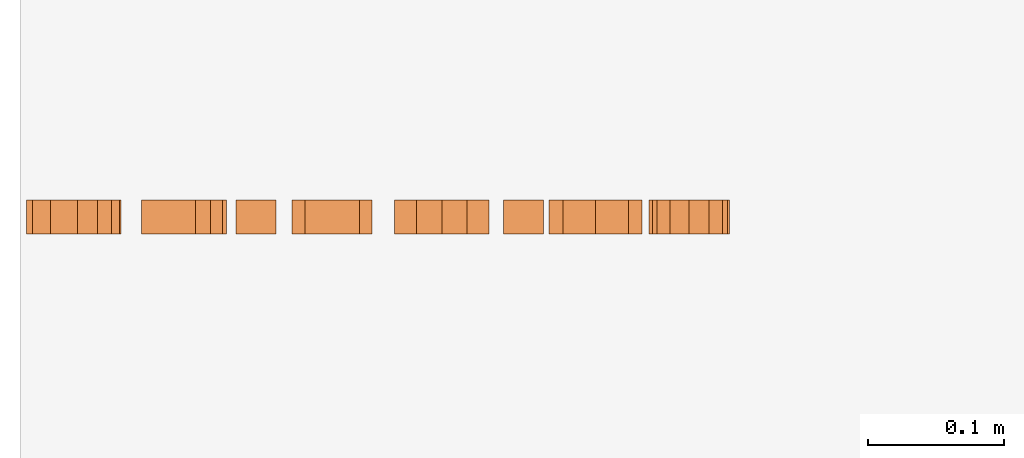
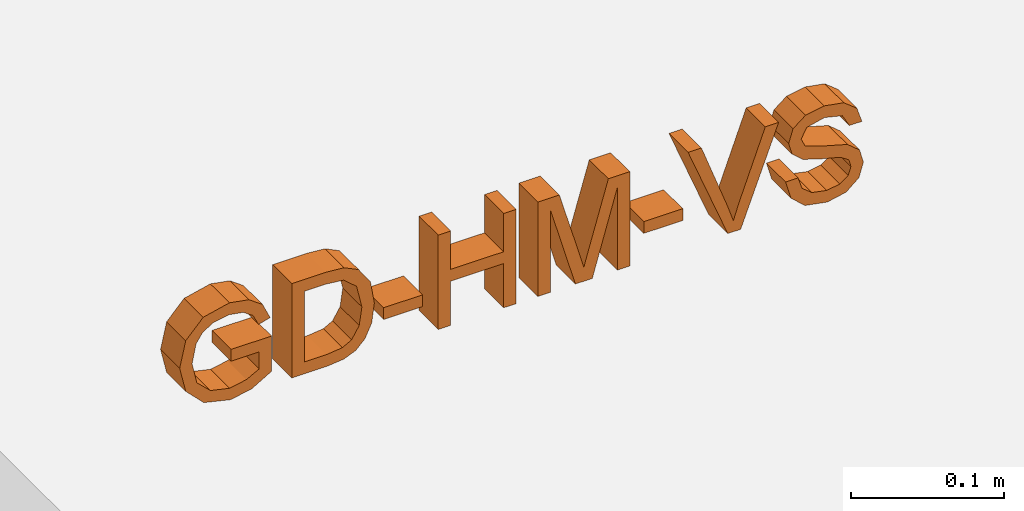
# Not in any storey, part 2 of 2: 1 proxy.
"""IFC4 model written with IfcOpenShell, lengths in metres."""

from ifc_helpers import new_model, entity, si_unit, converted_unit, derived_unit, direction, frame, origin, place, context, subcontext, project, spatial, indexed_curve, outline, extrude, type_object, element, save


model = new_model("IFC4")

# Units and contexts
model_context = context("Model", 3, precision=1e-05, world=origin(), true_north=direction((6.123031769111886e-17, 1.0)))
body_context = subcontext(model_context, "Body", "Model", "MODEL_VIEW")
ifc_project = project(units=[si_unit("LENGTHUNIT", "METRE"), si_unit("AREAUNIT", "SQUARE_METRE"), si_unit("VOLUMEUNIT", "CUBIC_METRE"), converted_unit("PLANEANGLEUNIT", "DEGREE", entity("IfcRatioMeasure", 0.017453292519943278), si_unit("PLANEANGLEUNIT", "RADIAN"), dimensions=[0, 0, 0, 0, 0, 0, 0]), si_unit("MASSUNIT", "GRAM", prefix="KILO"), derived_unit("MASSDENSITYUNIT", [(si_unit("MASSUNIT", "GRAM", prefix="KILO"), 1), (si_unit("LENGTHUNIT", "METRE"), -3)]), derived_unit("IONCONCENTRATIONUNIT", [(si_unit("MASSUNIT", "GRAM", prefix="KILO"), 1), (si_unit("LENGTHUNIT", "METRE"), -3)]), derived_unit("MOMENTOFINERTIAUNIT", [(si_unit("LENGTHUNIT", "METRE"), 4)]), si_unit("TIMEUNIT", "SECOND"), si_unit("FREQUENCYUNIT", "HERTZ"), si_unit("THERMODYNAMICTEMPERATUREUNIT", "DEGREE_CELSIUS"), derived_unit("THERMALTRANSMITTANCEUNIT", [(si_unit("MASSUNIT", "GRAM", prefix="KILO"), 1), (si_unit("THERMODYNAMICTEMPERATUREUNIT", "KELVIN"), -1), (si_unit("TIMEUNIT", "SECOND"), -3)]), derived_unit("THERMALCONDUCTANCEUNIT", [(si_unit("MASSUNIT", "GRAM", prefix="KILO"), 1), (si_unit("THERMODYNAMICTEMPERATUREUNIT", "KELVIN"), -1), (si_unit("TIMEUNIT", "SECOND"), -3), (si_unit("LENGTHUNIT", "METRE"), 1)]), derived_unit("VOLUMETRICFLOWRATEUNIT", [(si_unit("LENGTHUNIT", "METRE"), 3), (si_unit("TIMEUNIT", "SECOND"), -1)]), derived_unit("MASSFLOWRATEUNIT", [(si_unit("MASSUNIT", "GRAM", prefix="KILO"), 1), (si_unit("TIMEUNIT", "SECOND"), -1)]), derived_unit("ROTATIONALFREQUENCYUNIT", [(si_unit("TIMEUNIT", "SECOND"), -1)]), si_unit("ELECTRICCURRENTUNIT", "AMPERE"), si_unit("ELECTRICVOLTAGEUNIT", "VOLT"), si_unit("POWERUNIT", "WATT"), si_unit("FORCEUNIT", "NEWTON", prefix="KILO"), si_unit("ILLUMINANCEUNIT", "LUX"), si_unit("LUMINOUSFLUXUNIT", "LUMEN"), si_unit("LUMINOUSINTENSITYUNIT", "CANDELA"), derived_unit("USERDEFINED", [(si_unit("MASSUNIT", "GRAM", prefix="KILO"), -1), (si_unit("LENGTHUNIT", "METRE"), -2), (si_unit("TIMEUNIT", "SECOND"), 3), (si_unit("LUMINOUSFLUXUNIT", "LUMEN"), 1)]), derived_unit("USERDEFINED", [(si_unit("MASSUNIT", "GRAM", prefix="KILO"), 1), (si_unit("TIMEUNIT", "SECOND"), -3), (si_unit("LENGTHUNIT", "METRE"), 3), (si_unit("ELECTRICCURRENTUNIT", "AMPERE"), -2)]), derived_unit("SOUNDPOWERUNIT", [(si_unit("MASSUNIT", "GRAM", prefix="KILO"), 1), (si_unit("TIMEUNIT", "SECOND"), -3), (si_unit("LENGTHUNIT", "METRE"), 2)]), derived_unit("SOUNDPRESSUREUNIT", [(si_unit("MASSUNIT", "GRAM", prefix="KILO"), 1), (si_unit("LENGTHUNIT", "METRE"), -1), (si_unit("TIMEUNIT", "SECOND"), -2)]), derived_unit("LINEARVELOCITYUNIT", [(si_unit("LENGTHUNIT", "METRE"), 1), (si_unit("TIMEUNIT", "SECOND"), -1)]), si_unit("PRESSUREUNIT", "PASCAL"), derived_unit("USERDEFINED", [(si_unit("MASSUNIT", "GRAM", prefix="KILO"), 1), (si_unit("LENGTHUNIT", "METRE"), -2), (si_unit("TIMEUNIT", "SECOND"), -2)]), derived_unit("LINEARFORCEUNIT", [(si_unit("MASSUNIT", "GRAM", prefix="KILO"), 1), (si_unit("TIMEUNIT", "SECOND"), -2)]), derived_unit("PLANARFORCEUNIT", [(si_unit("MASSUNIT", "GRAM", prefix="KILO"), 1), (si_unit("LENGTHUNIT", "METRE"), -1), (si_unit("TIMEUNIT", "SECOND"), -2)]), derived_unit("SPECIFICHEATCAPACITYUNIT", [(si_unit("THERMODYNAMICTEMPERATUREUNIT", "KELVIN"), -1), (si_unit("LENGTHUNIT", "METRE"), 2), (si_unit("TIMEUNIT", "SECOND"), -2)]), derived_unit("HEATINGVALUEUNIT", [(si_unit("LENGTHUNIT", "METRE"), 2), (si_unit("TIMEUNIT", "SECOND"), -2)]), derived_unit("VAPORPERMEABILITYUNIT", [(si_unit("LENGTHUNIT", "METRE"), -1), (si_unit("TIMEUNIT", "SECOND"), 1)]), derived_unit("DYNAMICVISCOSITYUNIT", [(si_unit("MASSUNIT", "GRAM", prefix="KILO"), 1), (si_unit("TIMEUNIT", "SECOND"), -1), (si_unit("LENGTHUNIT", "METRE"), -1)]), derived_unit("THERMALEXPANSIONCOEFFICIENTUNIT", [(si_unit("THERMODYNAMICTEMPERATUREUNIT", "KELVIN"), -1)]), derived_unit("MODULUSOFELASTICITYUNIT", [(si_unit("MASSUNIT", "GRAM", prefix="KILO"), 1), (si_unit("LENGTHUNIT", "METRE"), -1), (si_unit("TIMEUNIT", "SECOND"), -2)]), derived_unit("ISOTHERMALMOISTURECAPACITYUNIT", [(si_unit("LENGTHUNIT", "METRE"), 3), (si_unit("MASSUNIT", "GRAM", prefix="KILO"), -1)]), derived_unit("MOISTUREDIFFUSIVITYUNIT", [(si_unit("TIMEUNIT", "SECOND"), -1), (si_unit("LENGTHUNIT", "METRE"), 2)])], contexts=[model_context])

# Site
site_placement = place(None, origin())
site = spatial("IfcSite", under=ifc_project, at=site_placement, Name="Default", CompositionType="ELEMENT")

# Proxy
building_element_proxy_type = type_object("IfcBuildingElementProxyType", Name="Modelltext:075mm Arial", PredefinedType="NOTDEFINED")
proxy_placement = place(site_placement, origin())
element("IfcBuildingElementProxy", 1, at=proxy_placement, inside=site, type_object=building_element_proxy_type, Name="Modelltext:075mm Arial", ObjectType="Modelltext:075mm Arial", PredefinedType="NOTDEFINED", context=body_context, shape_type="SweptSolid", body=[
    extrude(outline(indexed_curve([(-0.00963121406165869, 0.0014347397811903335), (-0.00021343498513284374, 0.0014347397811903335), (-0.00021343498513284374, 0.0320425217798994), (-0.02837480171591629, 0.0320425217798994), (-0.03725915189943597, 0.01693176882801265), (-0.04023899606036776, 0.0009564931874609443), (-0.035502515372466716, -0.01915745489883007), (-0.021789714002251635, -0.032805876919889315), (-0.0017585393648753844, -0.03741359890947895), (0.01872329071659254, -0.032824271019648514), (0.032840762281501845, -0.019626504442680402), (0.03745768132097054, 0.00020233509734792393), (0.034781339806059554, 0.014936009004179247), (0.027331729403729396, 0.025264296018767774), (0.014869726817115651, 0.030957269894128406), (0.01242331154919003, 0.022275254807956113), (0.02113291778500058, 0.017980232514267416), (0.026154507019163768, 0.01064098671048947), (0.028039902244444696, 5.518229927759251e-05), (0.026007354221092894, -0.01200215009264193), (0.020673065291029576, -0.020205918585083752), (0.013416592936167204, -0.025052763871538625), (-0.001372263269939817, -0.027995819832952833), (-0.01778899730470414, -0.024454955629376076), (-0.027611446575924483, -0.014154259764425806), (-0.030821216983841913, 0.00020233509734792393), (-0.028402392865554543, 0.01308740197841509), (-0.02324284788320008, 0.02262474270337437), (-0.00963121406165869, 0.02262474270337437), (-0.00963121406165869, 0.0014347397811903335)], self_intersect=False)), frame((6.947724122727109, 42.834392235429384, 2.137192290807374), z_axis=(0.0, 1.0, 0.0), x_axis=(0.0, 0.0, 1.0)), (0.0, 0.0, 1.0), 0.025000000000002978),
    extrude(outline(indexed_curve([(-0.03575046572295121, -0.03902844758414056), (0.039591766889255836, -0.03902844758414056), (0.039591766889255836, -0.013037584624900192), (0.0385065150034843, 0.000408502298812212), (0.0331170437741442, 0.011481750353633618), (0.02024117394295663, 0.02040288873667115), (0.0023253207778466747, 0.02336433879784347), (-0.012877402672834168, 0.021359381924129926), (-0.023849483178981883, 0.016209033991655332), (-0.030682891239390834, 0.00932964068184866), (-0.03446287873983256, 0.0003257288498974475), (-0.03575046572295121, -0.011786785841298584), (-0.03575046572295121, -0.03902844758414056)], self_intersect=False), holes=[indexed_curve([(-0.02633268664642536, -0.029610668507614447), (-0.02633268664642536, -0.012945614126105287), (-0.024971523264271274, -0.0008239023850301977), (-0.021127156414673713, 0.006165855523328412), (-0.011773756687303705, 0.011895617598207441), (0.0024724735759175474, 0.013946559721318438), (0.020314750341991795, 0.009927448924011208), (0.02866567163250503, 0.0001509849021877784), (0.03017398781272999, -0.01320313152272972), (0.03017398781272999, -0.029610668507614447), (-0.02633268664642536, -0.029610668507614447)], self_intersect=False)]), frame((7.034098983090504, 42.834392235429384, 2.133880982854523), z_axis=(0.0, 1.0, 0.0), x_axis=(0.0, 0.0, 1.0)), (0.0, 0.0, 1.0), 0.025000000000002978),
    extrude(outline(indexed_curve([(-0.01250000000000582, -0.014715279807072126), (0.01249999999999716, -0.014715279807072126), (0.01249999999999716, 0.014715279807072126), (-0.01250000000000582, 0.014715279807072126), (-0.01250000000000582, -0.014715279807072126)], self_intersect=False)), frame((7.079241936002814, 42.84689223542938, 2.1204977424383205), z_axis=(0.0, 0.0, 1.0), x_axis=(0.0, 1.0, 0.0)), (0.0, 0.0, 1.0), 0.009417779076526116),
    extrude(outline(indexed_curve([(-0.03845593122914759, -0.02943055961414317), (0.03688630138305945, -0.02943055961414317), (0.03688630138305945, -0.020012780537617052), (0.006278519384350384, -0.020012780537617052), (0.006278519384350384, 0.020012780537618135), (0.03688630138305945, 0.020012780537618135), (0.03688630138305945, 0.02943055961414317), (-0.03845593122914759, 0.02943055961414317), (-0.03845593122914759, 0.020012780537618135), (-0.0031392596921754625, 0.020012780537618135), (-0.0031392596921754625, -0.020012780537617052), (-0.03845593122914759, -0.020012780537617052), (-0.03845593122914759, -0.02943055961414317)], self_intersect=False)), frame((7.135159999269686, 42.834392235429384, 2.1365864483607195), z_axis=(0.0, 1.0, 0.0), x_axis=(0.0, 0.0, 1.0)), (0.0, 0.0, 1.0), 0.025000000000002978),
    extrude(outline(indexed_curve([(-0.03265075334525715, -0.034745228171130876), (0.04269147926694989, -0.034745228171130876), (0.04269147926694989, -0.01854002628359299), (-0.010412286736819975, -0.0031257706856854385), (-0.021503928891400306, -1.7167826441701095e-05), (-0.009492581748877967, 0.0033489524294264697), (0.04269147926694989, 0.01850569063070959), (0.04269147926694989, 0.03471089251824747), (-0.03265075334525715, 0.03471089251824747), (-0.03265075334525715, 0.02529311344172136), (0.03327370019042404, 0.02529311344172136), (-0.03265075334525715, 0.006365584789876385), (-0.03265075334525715, -0.006399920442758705), (0.03327370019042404, -0.02532744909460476), (-0.03265075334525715, -0.02532744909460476), (-0.03265075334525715, -0.034745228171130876)], self_intersect=False)), frame((7.21581690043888, 42.834392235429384, 2.1307812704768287), z_axis=(0.0, 1.0, 0.0), x_axis=(0.0, 0.0, 1.0)), (0.0, 0.0, 1.0), 0.025000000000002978),
    extrude(outline(indexed_curve([(-0.01250000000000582, -0.014715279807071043), (0.01249999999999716, -0.014715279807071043), (0.01249999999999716, 0.014715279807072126), (-0.01250000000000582, 0.014715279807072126), (-0.01250000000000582, -0.014715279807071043)], self_intersect=False)), frame((7.275838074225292, 42.84689223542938, 2.1204977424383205), z_axis=(0.0, 0.0, 1.0), x_axis=(0.0, 1.0, 0.0)), (0.0, 0.0, 1.0), 0.009417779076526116),
    extrude(outline(indexed_curve([(-0.034758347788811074, -0.018530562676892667), (0.04633046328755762, -0.018530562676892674), (0.04260342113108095, -0.0091649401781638), (-0.015250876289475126, -0.010589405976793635), (-0.02811915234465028, -0.011335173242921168), (-0.018236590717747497, -0.0030866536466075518), (0.02475714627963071, 0.03568066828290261), (0.021030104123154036, 0.045046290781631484), (-0.03835616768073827, -0.009489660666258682), (-0.034758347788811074, -0.018530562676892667)], self_intersect=False)), frame((7.328947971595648, 42.834392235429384, 2.1372772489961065), z_axis=(0.0, 1.0, 0.0), x_axis=(-0.3697474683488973, 0.0, 0.9291322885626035)), (0.0, 0.0, 1.0), 0.025000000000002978),
    extrude(outline(indexed_curve([(-0.03029298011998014, 0.011054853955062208), (-0.020875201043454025, 0.011054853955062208), (-0.017840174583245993, 0.020481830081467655), (-0.010427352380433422, 0.02644151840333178), (0.0008666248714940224, 0.028713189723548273), (0.010707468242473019, 0.026993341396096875), (0.01706262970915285, 0.02226605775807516), (0.01915036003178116, 0.015947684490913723), (0.017586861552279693, 0.010070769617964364), (0.011185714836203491, 0.005794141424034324), (-0.0025270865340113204, 0.0021980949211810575), (-0.017288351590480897, -0.0024464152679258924), (-0.025298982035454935, -0.0094545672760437), (-0.02793853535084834, -0.018817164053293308), (-0.024673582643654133, -0.02947654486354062), (-0.015136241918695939, -0.036999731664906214), (-0.0011751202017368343, -0.03956570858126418), (0.013724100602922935, -0.0368801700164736), (0.023656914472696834, -0.02898910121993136), (0.027390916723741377, -0.01719848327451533), (0.01797313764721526, -0.01719848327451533), (0.01263884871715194, -0.0268737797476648), (-0.0008072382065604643, -0.030147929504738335), (-0.01429011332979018, -0.02691056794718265), (-0.018520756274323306, -0.019093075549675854), (-0.015522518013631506, -0.012563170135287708), (-0.00014505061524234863, -0.007302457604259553), (0.016520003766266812, -0.0025751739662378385), (0.025634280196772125, 0.005058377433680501), (0.028568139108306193, 0.01570856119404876), (0.025192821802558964, 0.026974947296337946), (0.015480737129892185, 0.03519710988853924), (0.0012345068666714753, 0.03813096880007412), (-0.015586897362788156, 0.03496718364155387), (-0.026227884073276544, 0.025439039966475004), (-0.03029298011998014, 0.011054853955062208)], self_intersect=False)), frame((7.398543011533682, 42.834392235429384, 2.13508426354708), z_axis=(0.0, 1.0, 0.0), x_axis=(1.0, 0.0, 0.0)), (0.0, 0.0, 1.0), 0.025000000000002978),
])

save(model, "model.ifc")
